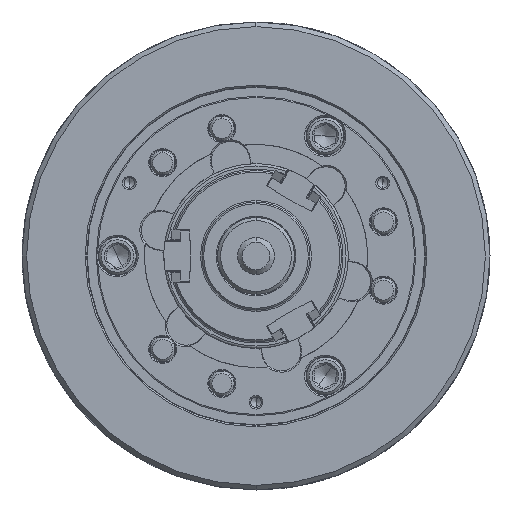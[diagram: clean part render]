
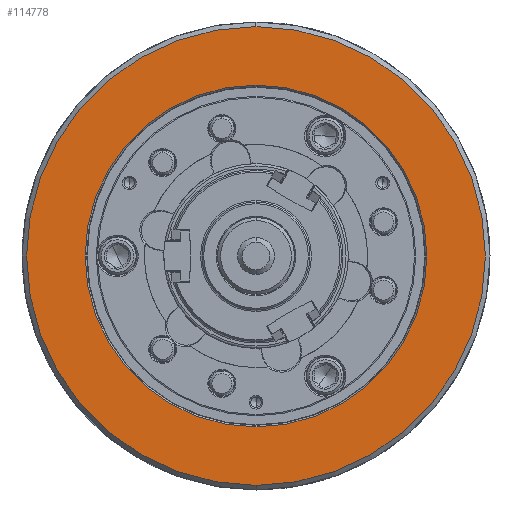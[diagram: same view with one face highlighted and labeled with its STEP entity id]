
A CAD part, left-side view. The second image highlights one B-rep face of the part: STEP entity #114778.
In plain terms, the highlighted planar face has unit normal (-1, 0, 0).
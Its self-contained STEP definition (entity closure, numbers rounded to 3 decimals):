
#2834 = DIRECTION ( 'NONE',  ( 1., 0., 0. ) ) ;
#2962 = AXIS2_PLACEMENT_3D ( 'NONE', #99185, #2834, #118081 ) ;
#3552 = PLANE ( 'NONE',  #94373 ) ;
#4155 = CARTESIAN_POINT ( 'NONE',  ( -106., -111., 0. ) ) ;
#4596 = DIRECTION ( 'NONE',  ( 1., 0., 0. ) ) ;
#7467 = AXIS2_PLACEMENT_3D ( 'NONE', #81704, #111313, #15560 ) ;
#12331 = VERTEX_POINT ( 'NONE', #116274 ) ;
#14046 = CARTESIAN_POINT ( 'NONE',  ( -106., 0., 0. ) ) ;
#14087 = ORIENTED_EDGE ( 'NONE', *, *, #119129, .F. ) ;
#15560 = DIRECTION ( 'NONE',  ( 0., 0., -1. ) ) ;
#16641 = DIRECTION ( 'NONE',  ( 1., 0., 0. ) ) ;
#17540 = CARTESIAN_POINT ( 'NONE',  ( -106., 0., -111. ) ) ;
#21751 = VERTEX_POINT ( 'NONE', #17540 ) ;
#23097 = EDGE_CURVE ( 'NONE', #115183, #12331, #79850, .T. ) ;
#27662 = ORIENTED_EDGE ( 'NONE', *, *, #98448, .T. ) ;
#32194 = CARTESIAN_POINT ( 'NONE',  ( -106., 0., 149. ) ) ;
#41127 = CIRCLE ( 'NONE', #2962, 111. ) ;
#42525 = DIRECTION ( 'NONE',  ( 0., 0., -1. ) ) ;
#54511 = EDGE_LOOP ( 'NONE', ( #14087, #63438 ) ) ;
#56580 = EDGE_LOOP ( 'NONE', ( #113488, #27662 ) ) ;
#59768 = CIRCLE ( 'NONE', #101979, 111. ) ;
#60651 = VERTEX_POINT ( 'NONE', #104605 ) ;
#62690 = FACE_OUTER_BOUND ( 'NONE', #54511, .T. ) ;
#63438 = ORIENTED_EDGE ( 'NONE', *, *, #23097, .F. ) ;
#65721 = DIRECTION ( 'NONE',  ( 0., 0., -1. ) ) ;
#73929 = CARTESIAN_POINT ( 'NONE',  ( -106., 0., 0. ) ) ;
#79850 = CIRCLE ( 'NONE', #7467, 149. ) ;
#81435 = DIRECTION ( 'NONE',  ( 0., 0., -1. ) ) ;
#81704 = CARTESIAN_POINT ( 'NONE',  ( -106., 0., 0. ) ) ;
#94373 = AXIS2_PLACEMENT_3D ( 'NONE', #4155, #99290, #42525 ) ;
#98448 = EDGE_CURVE ( 'NONE', #21751, #60651, #59768, .T. ) ;
#99185 = CARTESIAN_POINT ( 'NONE',  ( -106., 0., 0. ) ) ;
#99290 = DIRECTION ( 'NONE',  ( 1., 0., 0. ) ) ;
#101979 = AXIS2_PLACEMENT_3D ( 'NONE', #73929, #16641, #65721 ) ;
#104605 = CARTESIAN_POINT ( 'NONE',  ( -106., 0., 111. ) ) ;
#107123 = AXIS2_PLACEMENT_3D ( 'NONE', #14046, #4596, #81435 ) ;
#108891 = CIRCLE ( 'NONE', #107123, 149. ) ;
#109649 = EDGE_CURVE ( 'NONE', #60651, #21751, #41127, .T. ) ;
#111313 = DIRECTION ( 'NONE',  ( 1., 0., 0. ) ) ;
#113488 = ORIENTED_EDGE ( 'NONE', *, *, #109649, .T. ) ;
#114778 = ADVANCED_FACE ( 'NONE', ( #62690, #119434 ), #3552, .F. ) ;
#115183 = VERTEX_POINT ( 'NONE', #32194 ) ;
#116274 = CARTESIAN_POINT ( 'NONE',  ( -106., 0., -149. ) ) ;
#118081 = DIRECTION ( 'NONE',  ( 0., 0., -1. ) ) ;
#119129 = EDGE_CURVE ( 'NONE', #12331, #115183, #108891, .T. ) ;
#119434 = FACE_BOUND ( 'NONE', #56580, .T. ) ;
